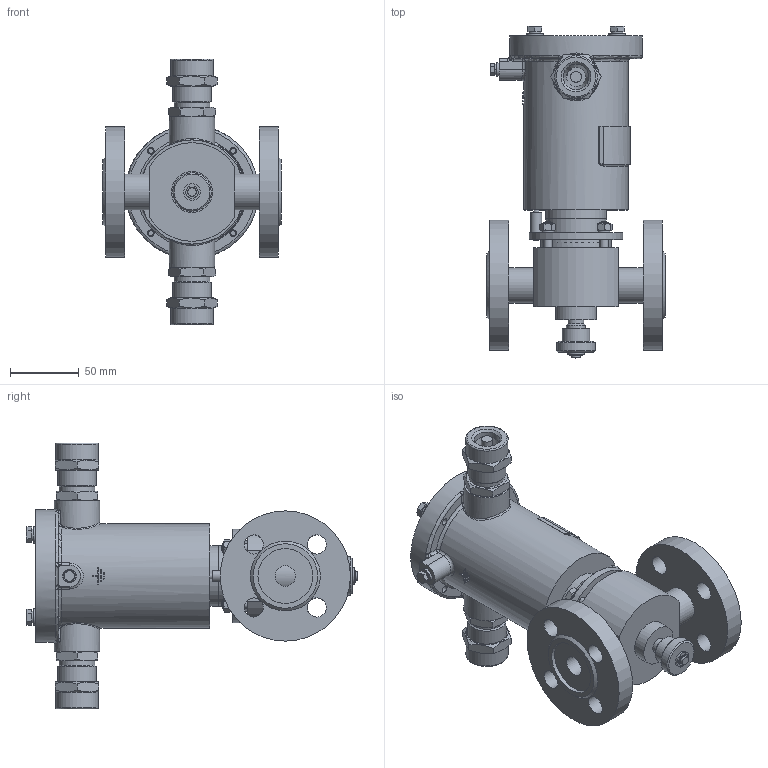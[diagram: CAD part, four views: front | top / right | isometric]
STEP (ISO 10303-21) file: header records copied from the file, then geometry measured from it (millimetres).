
FILE_DESCRIPTION(('STEP AP203'), '1');
FILE_NAME('ÑÅÍÑ DN15PN25-Â-ÍÎ.stp', '2018-09-19T08:53:09', ('Îðëîâ Å.Â.'), ('ÎÎÎ ÍÏÏ Ñåíñîð'), 'ASCON STEP Converter 1.3', 'Kompas 3D', '');
FILE_SCHEMA(('CONFIG_CONTROL_DESIGN','SUPPORT_RESOURCE_SCHEMA'));
Length unit declared in the file: millimetre
Products named in the file (1): 93
Bounding box: 130 x 242.2 x 194 mm (x, y, z)
Volume: 733905.5 mm3; surface area: 223629 mm2
Topology: 3 solids, 23 shells, 1909 faces, 5061 edges, 3300 vertices
Faces by surface type: cylinder 990, plane 720, cone 135, bspline 29, torus 19, extrusion 16
Full cylindrical faces by diameter (mm): 2.459 x4, 4 x8, 4.134 x1, 4.5 x2, 4.917 x8, 5 x2, 5.1 x1, 6 x15, 6.3 x2, 6.4 x1, 6.5 x11, 8 x8, 10 x3, 11.5 x1, 12 x5, 12.4 x1, 13 x2, 14 x9, 15 x2, 16 x1, 16.5 x1, 18 x1, 18.632 x2, 20 x5, 22 x2, 22.376 x2, 23.5 x3, 24 x3, 24.5 x3, 25 x2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
Entity records: 72107 total; most frequent: CARTESIAN_POINT 23403, DIRECTION 10621, ORIENTED_EDGE 10050, EDGE_CURVE 5025, AXIS2_PLACEMENT_3D 4094, VERTEX_POINT 3288, VECTOR 2433, LINE 2417
